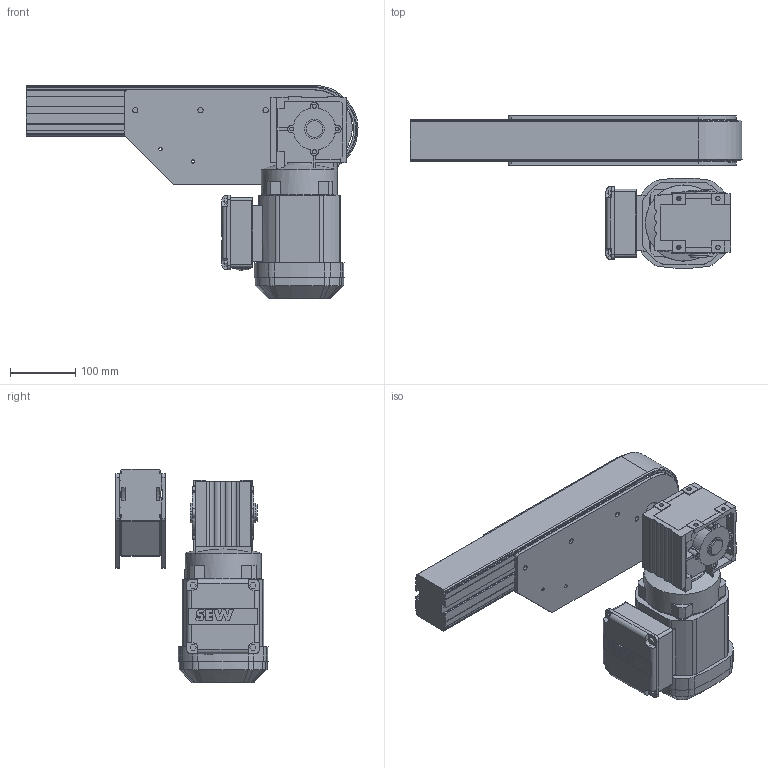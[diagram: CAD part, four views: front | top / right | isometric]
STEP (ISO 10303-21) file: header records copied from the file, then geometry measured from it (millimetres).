
FILE_DESCRIPTION((''),'2;1');
FILE_NAME('C:\Vault Klient\Projekt\Koncept konstruktion\Serie 620 Drivenhet\620-365H.stp','2010-11-05T09:00:18',('Mathias'),(''),'Autodesk Inventor 2011','Autodesk Inventor 2011','');
FILE_SCHEMA(('AUTOMOTIVE_DESIGN { 1 0 10303 214 1 1 1 1 }'));
Length unit declared in the file: millimetre
Products named in the file (1): 620-365H
Bounding box: 509.95 x 233.64 x 327.5 mm (x, y, z)
Volume: 6900101.2 mm3; surface area: 594393.3 mm2
Topology: 2 solids, 5 shells, 596 faces, 1669 edges, 1094 vertices
Faces by surface type: plane 373, cylinder 193, bspline 16, cone 12, sphere 2
Full cylindrical faces by diameter (mm): 5 x4, 6 x9, 6.6 x8, 8 x10, 20 x1, 25 x1, 26 x2, 28 x1, 30 x2, 117 x1
Entity records: 19956 total; most frequent: CARTESIAN_POINT 3804, ORIENTED_EDGE 3236, DIRECTION 3177, EDGE_CURVE 1618, VECTOR 1129, LINE 1129, VERTEX_POINT 1087, AXIS2_PLACEMENT_3D 1024
